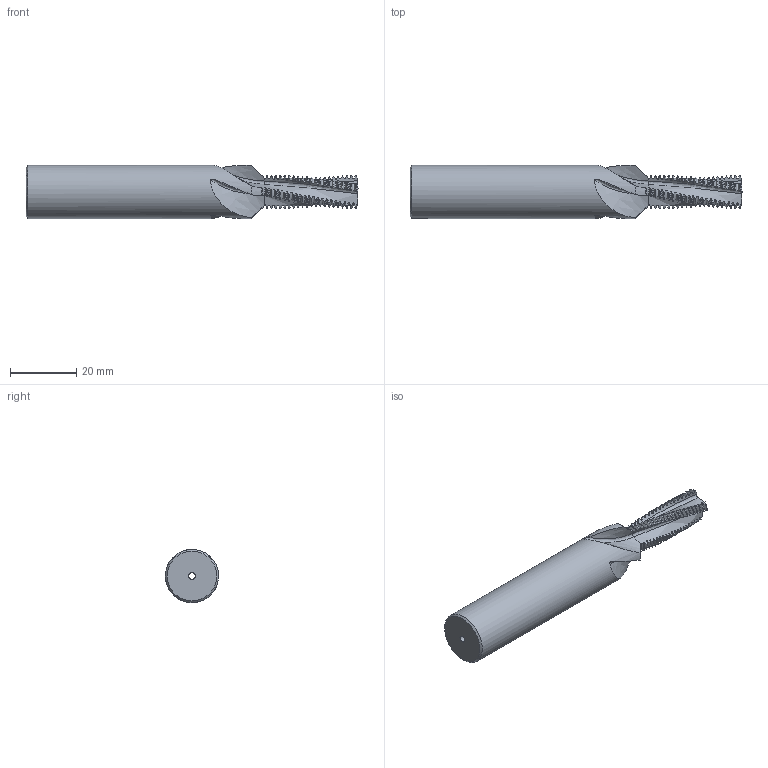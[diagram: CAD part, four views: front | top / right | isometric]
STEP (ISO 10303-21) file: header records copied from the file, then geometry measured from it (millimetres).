
FILE_DESCRIPTION(/* description */ (''),/* implementation_level */ '2;1');
FILE_NAME(/* name */ '00036404-STEP',/* time_stamp */ '2024-02-20T07:40:18+01:00',/* author */ (''),/* organization */ (''),/* preprocessor_version */ 'ST-DEVELOPER v16.5',/* originating_system */ 'HiCAD 2017 2201.0 Build 268',/* authorisation */ '');
FILE_SCHEMA (('AUTOMOTIVE_DESIGN { 1 0 10303 214 1 1 1 1 }'));
Products named in the file (2): Root; ROTATIONSTEIL_1
Assembly tree (1 placements, depth 2):
  Root
    ROTATIONSTEIL_1
Bounding box: 100 x 16 x 16 mm (x, y, z)
Volume: 13829.8 mm3; surface area: 5701.6 mm2
Topology: 1 solids, 1 shells, 381 faces, 1304 edges, 925 vertices
Faces by surface type: cone 177, torus 172, bspline 24, cylinder 6, plane 2
Full cylindrical faces by diameter (mm): 2 x1, 16 x1
Entity records: 45662 total; most frequent: CARTESIAN_POINT 23813, PRESENTATION_STYLE_ASSIGNMENT 2595, COLOUR_RGB 2595, DRAUGHTING_PRE_DEFINED_CURVE_FONT 2594, CURVE_STYLE 2594, OVER_RIDING_STYLED_ITEM 2594, ORIENTED_EDGE 2594, DIRECTION 1440
